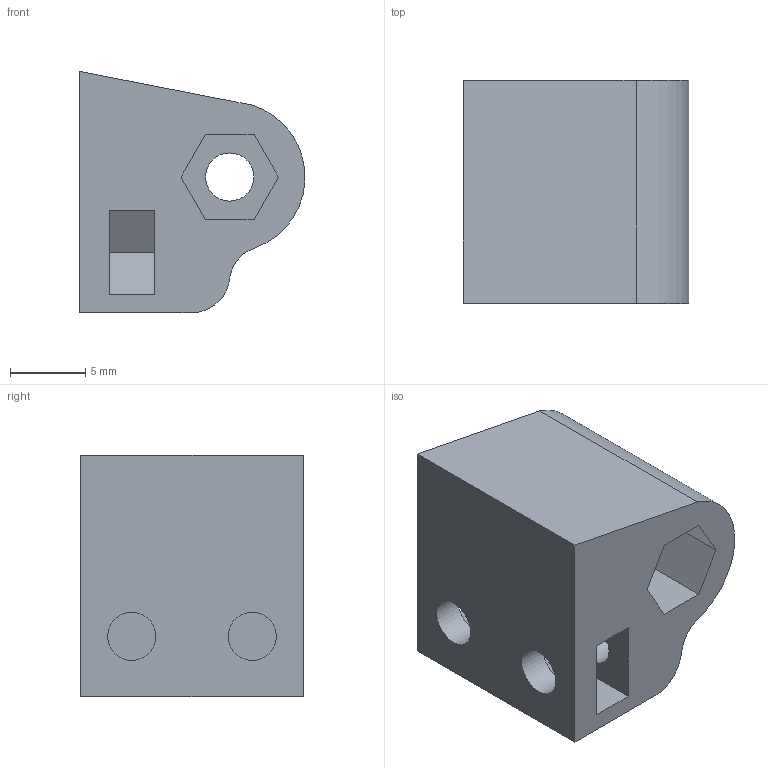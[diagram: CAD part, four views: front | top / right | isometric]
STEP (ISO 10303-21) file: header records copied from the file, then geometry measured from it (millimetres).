
FILE_DESCRIPTION(/* description */ (''),/* implementation_level */ '2;1');
FILE_NAME(/* name */ '3-04-2 Shock mount right.step',/* time_stamp */ '2025-05-10T22:03:42+02:00',/* author */ (''),/* organization */ (''),/* preprocessor_version */ 'ST-DEVELOPER v20.1',/* originating_system */ 'Autodesk Translation Framework v14.4.0.0',/* authorisation */ '');
FILE_SCHEMA (('AUTOMOTIVE_DESIGN { 1 0 10303 214 3 1 1 }'));
Length unit declared in the file: millimetre
Products named in the file (1): 3-04-2 Shock mount right
Bounding box: 14.99 x 14.8 x 16.01 mm (x, y, z)
Volume: 2303.2 mm3; surface area: 1612.6 mm2
Topology: 1 solids, 1 shells, 34 faces, 81 edges, 54 vertices
Faces by surface type: plane 26, cylinder 8
Full cylindrical faces by diameter (mm): 3.2 x5
Entity records: 1033 total; most frequent: CARTESIAN_POINT 170, DIRECTION 167, ORIENTED_EDGE 162, EDGE_CURVE 81, LINE 65, VECTOR 65, VERTEX_POINT 54, AXIS2_PLACEMENT_3D 51
